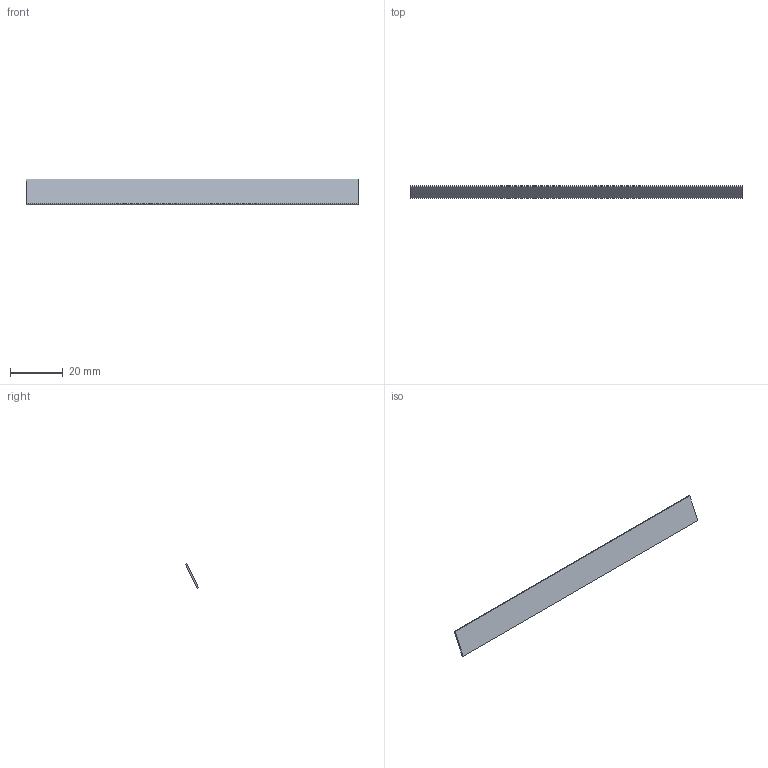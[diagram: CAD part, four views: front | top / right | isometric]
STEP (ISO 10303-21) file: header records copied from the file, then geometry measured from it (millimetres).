
FILE_DESCRIPTION(('Open CASCADE Model'),'2;1');
FILE_NAME('Open CASCADE Shape Model','2026-10-21T18:06:14',('Author'),( 'Open CASCADE'),'Open CASCADE STEP processor 8.0','build123d', 'Unknown');
FILE_SCHEMA(('AUTOMOTIVE_DESIGN { 1 0 10303 214 1 1 1 1 }'));
Length unit declared in the file: millimetre
Products named in the file (1): SOLID
Bounding box: 125.85 x 4.9 x 9.59 mm (x, y, z)
Volume: 777.8 mm3; surface area: 2755.9 mm2
Topology: 1 solids, 1 shells, 6 faces, 12 edges, 8 vertices
Faces by surface type: plane 6
Entity records: 310 total; most frequent: CARTESIAN_POINT 63, DIRECTION 38, ORIENTED_EDGE 24, LINE 24, VECTOR 24, PCURVE 24, DEFINITIONAL_REPRESENTATION 24, EDGE_CURVE 12
